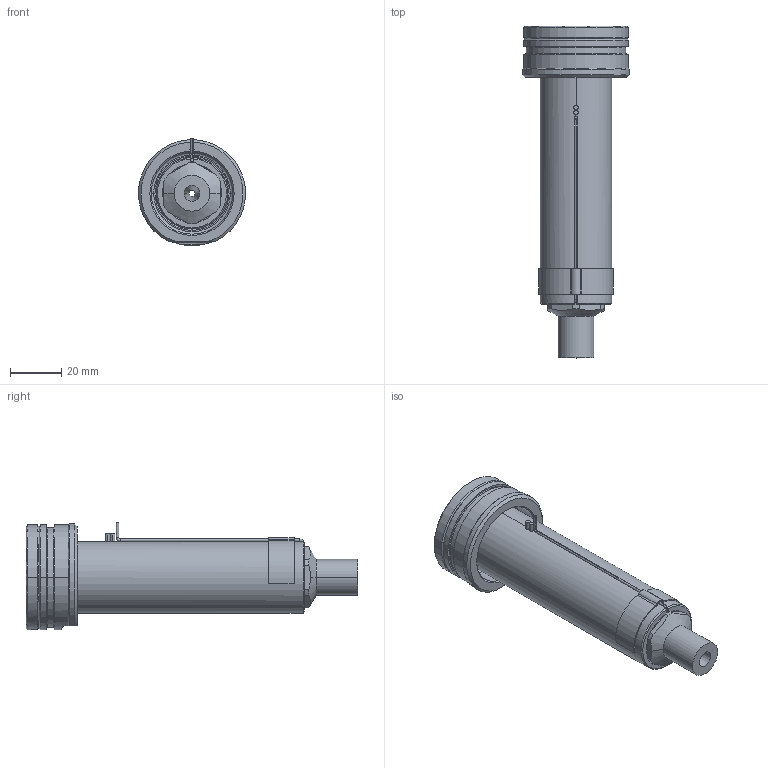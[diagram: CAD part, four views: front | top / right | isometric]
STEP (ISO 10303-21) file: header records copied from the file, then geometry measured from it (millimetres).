
FILE_DESCRIPTION((''),'2;1');
FILE_NAME('EO10_SG_ESG_100_SW','2024-02-19T12:26:12',('sundharh'),(''),'CREO PARAMETRIC BY PTC INC, 2023154','CREO PARAMETRIC BY PTC INC, 2023154','');
FILE_SCHEMA(('CONFIG_CONTROL_DESIGN'));
Length unit declared in the file: millimetre
Products named in the file (1): EO10_SG_ESG_100_SW
Bounding box: 41.85 x 130 x 42.02 mm (x, y, z)
Volume: 73857.3 mm3; surface area: 20900.5 mm2
Topology: 1 solids, 1 shells, 160 faces, 409 edges, 252 vertices
Faces by surface type: cylinder 63, plane 45, cone 29, torus 17, bspline 3, sphere 3
Entity records: 5535 total; most frequent: CARTESIAN_POINT 1586, DIRECTION 857, ORIENTED_EDGE 810, EDGE_CURVE 405, AXIS2_PLACEMENT_3D 353, VERTEX_POINT 252, CIRCLE 196, EDGE_LOOP 175
